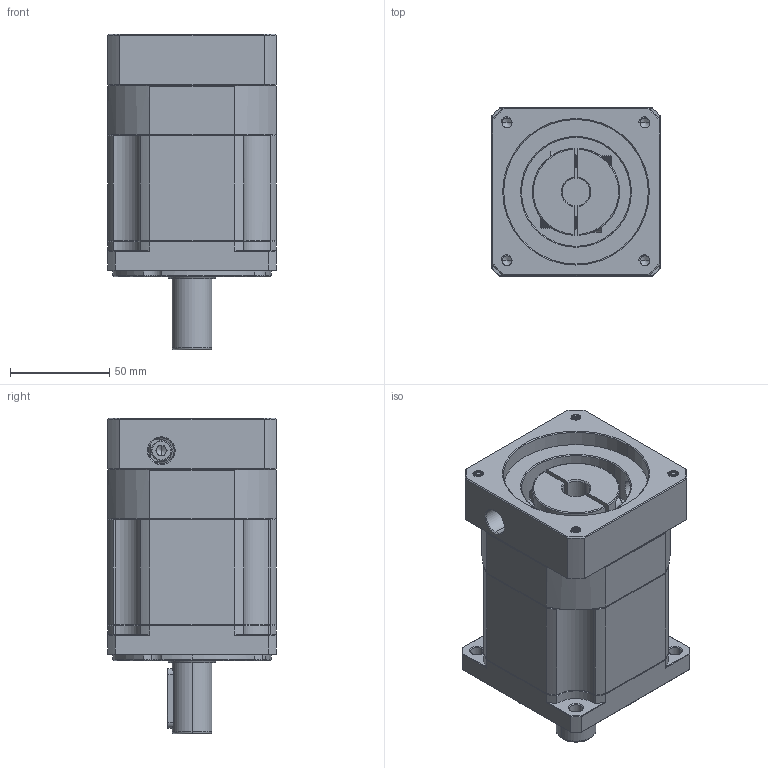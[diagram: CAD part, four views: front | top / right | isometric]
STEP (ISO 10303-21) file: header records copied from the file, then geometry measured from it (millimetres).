
FILE_DESCRIPTION (( 'STEP AP214' ), '1' );
FILE_NAME ('ZB90-D20-L2-14-73-69.5X69.5-M6.STEP', '2022-05-02T15:35:23', ( '' ), ( 'Microsoft' ), 'SwSTEP 2.0', 'SolidWorks 2016', '' );
FILE_SCHEMA (( 'AUTOMOTIVE_DESIGN' ));
Length unit declared in the file: millimetre
Products named in the file (1): ZB90-D20-L2-14-73-69.5X69.5-M6
Bounding box: 85 x 85 x 159.5 mm (x, y, z)
Volume: 727869.8 mm3; surface area: 91991.3 mm2
Topology: 4 solids, 5 shells, 1942 faces, 5071 edges, 3209 vertices
Faces by surface type: plane 886, cylinder 396, cone 334, bspline 299, torus 27
Entity records: 104739 total; most frequent: CARTESIAN_POINT 38408, ORIENTED_EDGE 10098, DIRECTION 8197, EDGE_CURVE 5049, VERTEX_POINT 3209, LINE 3101, VECTOR 3101, AXIS2_PLACEMENT_3D 2548
